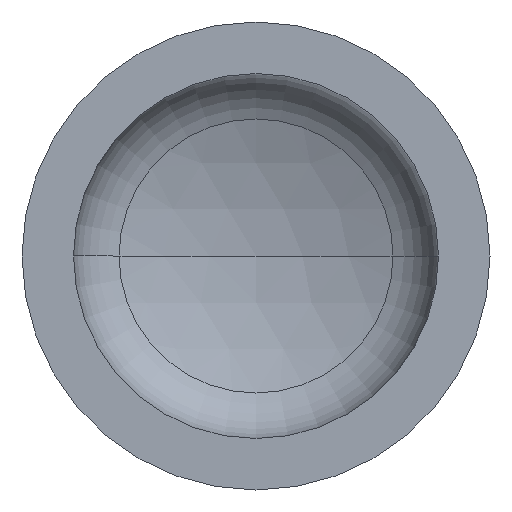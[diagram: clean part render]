
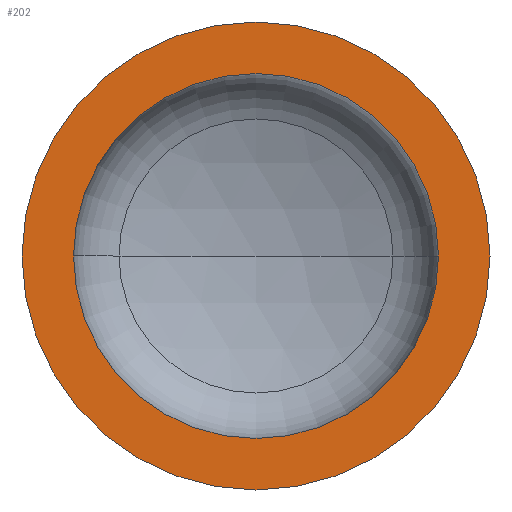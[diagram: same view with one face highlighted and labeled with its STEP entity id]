
A CAD part, front view. The second image highlights one B-rep face of the part: STEP entity #202.
In plain terms, the highlighted planar face has unit normal (0, -1, 0).
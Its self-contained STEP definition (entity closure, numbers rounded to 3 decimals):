
#3 = ORIENTED_EDGE ( 'NONE', *, *, #89, .F. ) ;
#12 = AXIS2_PLACEMENT_3D ( 'NONE', #242, #225, #224 ) ;
#13 = EDGE_LOOP ( 'NONE', ( #23, #125 ) ) ;
#23 = ORIENTED_EDGE ( 'NONE', *, *, #349, .T. ) ;
#44 = AXIS2_PLACEMENT_3D ( 'NONE', #264, #359, #360 ) ;
#48 = AXIS2_PLACEMENT_3D ( 'NONE', #327, #323, #350 ) ;
#54 = VERTEX_POINT ( 'NONE', #239 ) ;
#57 = EDGE_LOOP ( 'NONE', ( #3, #75 ) ) ;
#75 = ORIENTED_EDGE ( 'NONE', *, *, #326, .F. ) ;
#87 = EDGE_CURVE ( 'NONE', #124, #54, #395, .T. ) ;
#89 = EDGE_CURVE ( 'NONE', #99, #109, #223, .T. ) ;
#99 = VERTEX_POINT ( 'NONE', #194 ) ;
#101 = DIRECTION ( 'NONE',  ( 1., 0., 0. ) ) ;
#109 = VERTEX_POINT ( 'NONE', #192 ) ;
#124 = VERTEX_POINT ( 'NONE', #188 ) ;
#125 = ORIENTED_EDGE ( 'NONE', *, *, #87, .T. ) ;
#139 = CARTESIAN_POINT ( 'NONE',  ( 0., 0., 0. ) ) ;
#167 = CIRCLE ( 'NONE', #297, 300. ) ;
#171 = DIRECTION ( 'NONE',  ( 0., -1., 0. ) ) ;
#188 = CARTESIAN_POINT ( 'NONE',  ( -300., 0., 0. ) ) ;
#192 = CARTESIAN_POINT ( 'NONE',  ( -234., 0., 0. ) ) ;
#194 = CARTESIAN_POINT ( 'NONE',  ( 234., 0., 0. ) ) ;
#202 = ADVANCED_FACE ( 'NONE', ( #376, #316 ), #258, .F. ) ;
#223 = CIRCLE ( 'NONE', #44, 234. ) ;
#224 = DIRECTION ( 'NONE',  ( -1., 0., 0. ) ) ;
#225 = DIRECTION ( 'NONE',  ( 0., 1., 0. ) ) ;
#239 = CARTESIAN_POINT ( 'NONE',  ( 300., 0., 0. ) ) ;
#240 = CIRCLE ( 'NONE', #250, 234. ) ;
#242 = CARTESIAN_POINT ( 'NONE',  ( -300., 0., 0. ) ) ;
#250 = AXIS2_PLACEMENT_3D ( 'NONE', #305, #171, #401 ) ;
#258 = PLANE ( 'NONE',  #12 ) ;
#264 = CARTESIAN_POINT ( 'NONE',  ( 0., 0., 0. ) ) ;
#297 = AXIS2_PLACEMENT_3D ( 'NONE', #139, #312, #101 ) ;
#305 = CARTESIAN_POINT ( 'NONE',  ( 0., 0., 0. ) ) ;
#312 = DIRECTION ( 'NONE',  ( 0., -1., 0. ) ) ;
#316 = FACE_OUTER_BOUND ( 'NONE', #13, .T. ) ;
#323 = DIRECTION ( 'NONE',  ( 0., -1., 0. ) ) ;
#326 = EDGE_CURVE ( 'NONE', #109, #99, #240, .T. ) ;
#327 = CARTESIAN_POINT ( 'NONE',  ( 0., 0., 0. ) ) ;
#349 = EDGE_CURVE ( 'NONE', #54, #124, #167, .T. ) ;
#350 = DIRECTION ( 'NONE',  ( 1., 0., 0. ) ) ;
#359 = DIRECTION ( 'NONE',  ( 0., -1., 0. ) ) ;
#360 = DIRECTION ( 'NONE',  ( 1., 0., 0. ) ) ;
#376 = FACE_BOUND ( 'NONE', #57, .T. ) ;
#395 = CIRCLE ( 'NONE', #48, 300. ) ;
#401 = DIRECTION ( 'NONE',  ( 1., 0., 0. ) ) ;
